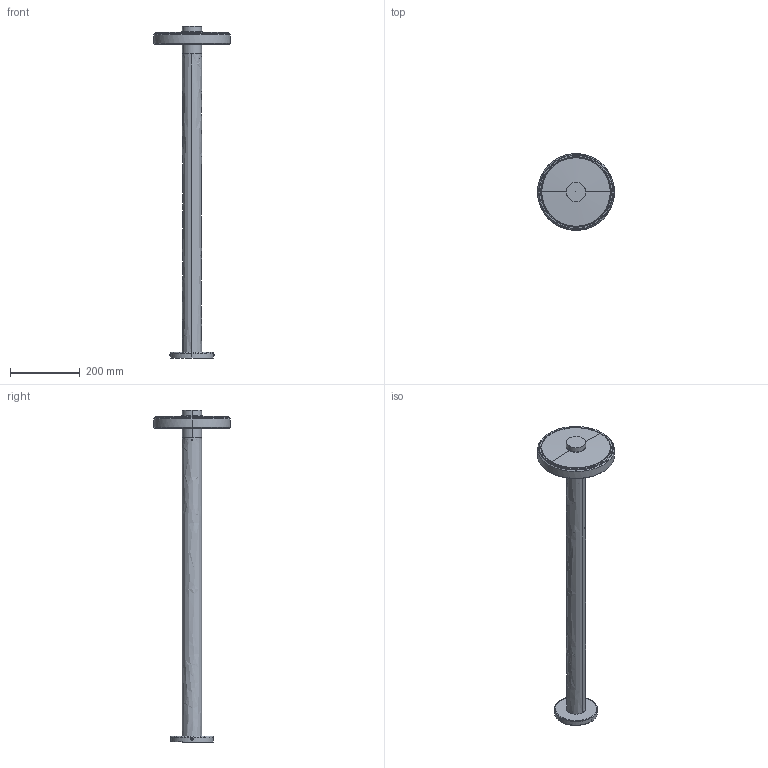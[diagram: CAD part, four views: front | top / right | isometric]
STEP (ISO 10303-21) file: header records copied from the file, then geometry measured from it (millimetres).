
FILE_DESCRIPTION(/* description */ (''),/* implementation_level */ '2;1');
FILE_NAME(/* name */ 'ET048.095',/* time_stamp */ '2024-09-03T12:28:03+02:00',/* author */ (''),/* organization */ (''),/* preprocessor_version */ 'ST-DEVELOPER v16.5',/* originating_system */ '',/* authorisation */ '');
FILE_SCHEMA (('AUTOMOTIVE_DESIGN'));
Length unit declared in the file: millimetre
Products named in the file (1): Document
Bounding box: 220 x 219.81 x 951.83 mm (x, y, z)
Volume: 1584164.4 mm3; surface area: 530965.7 mm2
Topology: 22 solids, 22 shells, 586 faces, 1361 edges, 801 vertices
Faces by surface type: bspline 396, plane 190
Entity records: 26614 total; most frequent: CARTESIAN_POINT 18594, ORIENTED_EDGE 2654, EDGE_CURVE 1327, VERTEX_POINT 801, B_SPLINE_CURVE_WITH_KNOTS 678, EDGE_LOOP 656, ADVANCED_FACE 586, FACE_OUTER_BOUND 586
